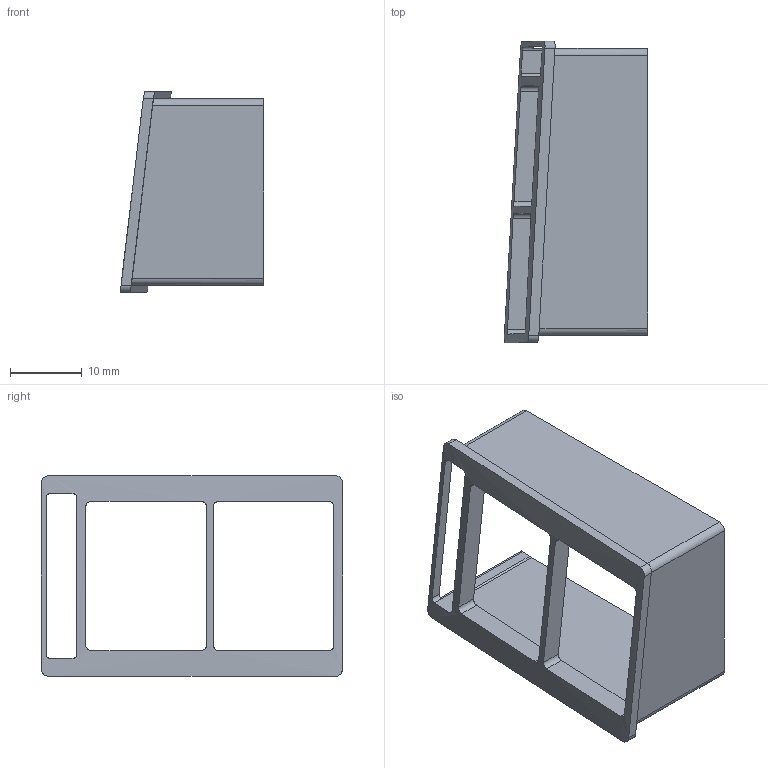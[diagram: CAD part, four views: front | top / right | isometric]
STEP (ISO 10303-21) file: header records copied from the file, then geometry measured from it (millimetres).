
FILE_DESCRIPTION(('Open CASCADE Model'),'2;1');
FILE_NAME('Open CASCADE Shape Model','2026-10-28T00:37:53',('Author'),( 'Open CASCADE'),'Open CASCADE STEP processor 7.8','Open CASCADE 7.8' ,'Unknown');
FILE_SCHEMA(('AUTOMOTIVE_DESIGN { 1 0 10303 214 1 1 1 1 }'));
Length unit declared in the file: millimetre
Products named in the file (1): Open CASCADE STEP translator 7.8 8
Bounding box: 20 x 42 x 28 mm (x, y, z)
Volume: 2639.6 mm3; surface area: 4730.2 mm2
Topology: 1 solids, 1 shells, 53 faces, 161 edges, 109 vertices
Faces by surface type: plane 26, cylinder 24, bspline 3
Entity records: 16711 total; most frequent: CARTESIAN_POINT 14042, ORIENTED_EDGE 322, PCURVE 322, DEFINITIONAL_REPRESENTATION 322, DIRECTION 308, B_SPLINE_CURVE_WITH_KNOTS 289, LINE 170, VECTOR 170
